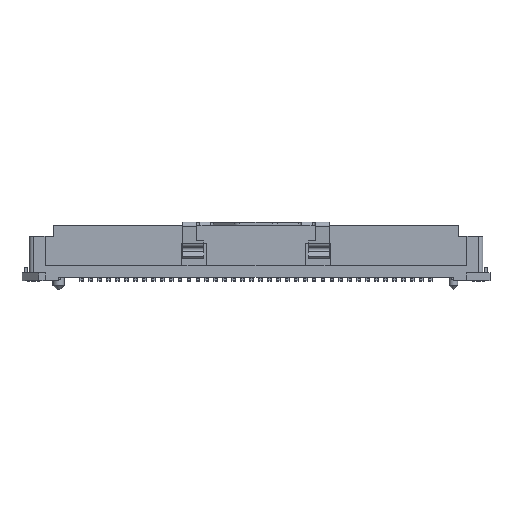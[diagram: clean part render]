
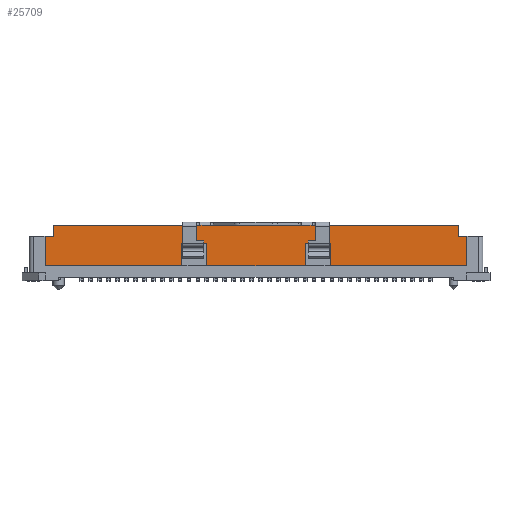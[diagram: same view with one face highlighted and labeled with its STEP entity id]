
A CAD part, top view. The second image highlights one B-rep face of the part: STEP entity #25709.
In plain terms, the highlighted planar face has unit normal (0, 0, 1).
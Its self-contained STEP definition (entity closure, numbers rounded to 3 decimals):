
#1405=DIRECTION('',(1.,0.,0.));
#1406=VECTOR('',#1405,1.);
#1407=CARTESIAN_POINT('',(4.2,1.975,2.4));
#1408=LINE('',#1407,#1406);
#1409=DIRECTION('',(0.,-1.,0.));
#1410=VECTOR('',#1409,0.8);
#1411=CARTESIAN_POINT('',(14.385,1.975,2.4));
#1412=LINE('',#1411,#1410);
#1413=DIRECTION('',(-1.,0.,0.));
#1414=VECTOR('',#1413,0.61);
#1415=CARTESIAN_POINT('',(14.995,1.175,2.4));
#1416=LINE('',#1415,#1414);
#1417=DIRECTION('',(0.,1.,0.));
#1418=VECTOR('',#1417,2.1);
#1419=CARTESIAN_POINT('',(14.995,-0.925,2.4));
#1420=LINE('',#1419,#1418);
#1421=DIRECTION('',(-1.,0.,0.));
#1422=VECTOR('',#1421,9.72);
#1423=CARTESIAN_POINT('',(14.995,-0.925,2.4));
#1424=LINE('',#1423,#1422);
#1425=DIRECTION('',(0.,1.,0.));
#1426=VECTOR('',#1425,1.6);
#1427=CARTESIAN_POINT('',(5.275,-0.925,2.4));
#1428=LINE('',#1427,#1426);
#1429=DIRECTION('',(1.,0.,0.));
#1430=VECTOR('',#1429,1.775);
#1431=CARTESIAN_POINT('',(3.5,0.675,2.4));
#1432=LINE('',#1431,#1430);
#1433=DIRECTION('',(0.,1.,0.));
#1434=VECTOR('',#1433,1.6);
#1435=CARTESIAN_POINT('',(3.5,-0.925,2.4));
#1436=LINE('',#1435,#1434);
#1437=DIRECTION('',(-1.,0.,0.));
#1438=VECTOR('',#1437,7.);
#1439=CARTESIAN_POINT('',(3.5,-0.925,2.4));
#1440=LINE('',#1439,#1438);
#1441=DIRECTION('',(0.,1.,0.));
#1442=VECTOR('',#1441,1.6);
#1443=CARTESIAN_POINT('',(-3.5,-0.925,2.4));
#1444=LINE('',#1443,#1442);
#1445=DIRECTION('',(1.,0.,0.));
#1446=VECTOR('',#1445,1.775);
#1447=CARTESIAN_POINT('',(-5.275,0.675,2.4));
#1448=LINE('',#1447,#1446);
#1449=DIRECTION('',(0.,1.,0.));
#1450=VECTOR('',#1449,1.6);
#1451=CARTESIAN_POINT('',(-5.275,-0.925,2.4));
#1452=LINE('',#1451,#1450);
#1453=DIRECTION('',(-1.,0.,0.));
#1454=VECTOR('',#1453,9.72);
#1455=CARTESIAN_POINT('',(-5.275,-0.925,2.4));
#1456=LINE('',#1455,#1454);
#1457=DIRECTION('',(0.,1.,0.));
#1458=VECTOR('',#1457,2.1);
#1459=CARTESIAN_POINT('',(-14.995,-0.925,2.4));
#1460=LINE('',#1459,#1458);
#1461=DIRECTION('',(1.,0.,0.));
#1462=VECTOR('',#1461,0.61);
#1463=CARTESIAN_POINT('',(-14.995,1.175,2.4));
#1464=LINE('',#1463,#1462);
#1465=DIRECTION('',(0.,-1.,0.));
#1466=VECTOR('',#1465,0.8);
#1467=CARTESIAN_POINT('',(-14.385,1.975,2.4));
#1468=LINE('',#1467,#1466);
#1469=DIRECTION('',(-1.,0.,0.));
#1470=VECTOR('',#1469,1.);
#1471=CARTESIAN_POINT('',(-4.2,1.975,2.4));
#1472=LINE('',#1471,#1470);
#1473=DIRECTION('',(0.,-1.,0.));
#1474=VECTOR('',#1473,0.005);
#1475=CARTESIAN_POINT('',(-1.959,1.975,2.4));
#1476=LINE('',#1475,#1474);
#1477=DIRECTION('',(-1.,0.,0.));
#1478=VECTOR('',#1477,3.917);
#1479=CARTESIAN_POINT('',(1.959,1.97,2.4));
#1480=LINE('',#1479,#1478);
#1481=DIRECTION('',(0.,-1.,0.));
#1482=VECTOR('',#1481,0.005);
#1483=CARTESIAN_POINT('',(1.959,1.975,2.4));
#1484=LINE('',#1483,#1482);
#1689=DIRECTION('',(-1.,0.,0.));
#1690=VECTOR('',#1689,2.241);
#1691=CARTESIAN_POINT('',(-1.959,1.975,2.4));
#1692=LINE('',#1691,#1690);
#1693=DIRECTION('',(-1.,0.,0.));
#1694=VECTOR('',#1693,9.185);
#1695=CARTESIAN_POINT('',(-5.2,1.975,2.4));
#1696=LINE('',#1695,#1694);
#1721=DIRECTION('',(-1.,0.,0.));
#1722=VECTOR('',#1721,9.185);
#1723=CARTESIAN_POINT('',(14.385,1.975,2.4));
#1724=LINE('',#1723,#1722);
#1733=DIRECTION('',(-1.,0.,0.));
#1734=VECTOR('',#1733,2.241);
#1735=CARTESIAN_POINT('',(4.2,1.975,2.4));
#1736=LINE('',#1735,#1734);
#18393=CARTESIAN_POINT('',(14.385,1.975,2.4));
#18394=CARTESIAN_POINT('',(14.385,1.175,2.4));
#18395=VERTEX_POINT('',#18393);
#18396=VERTEX_POINT('',#18394);
#18397=CARTESIAN_POINT('',(-14.385,1.975,2.4));
#18398=CARTESIAN_POINT('',(-14.385,1.175,2.4));
#18399=VERTEX_POINT('',#18397);
#18400=VERTEX_POINT('',#18398);
#18413=CARTESIAN_POINT('',(14.995,1.175,2.4));
#18414=VERTEX_POINT('',#18413);
#18415=CARTESIAN_POINT('',(-14.995,1.175,2.4));
#18416=VERTEX_POINT('',#18415);
#18485=CARTESIAN_POINT('',(-14.995,-0.925,2.4));
#18486=VERTEX_POINT('',#18485);
#18487=CARTESIAN_POINT('',(14.995,-0.925,2.4));
#18488=VERTEX_POINT('',#18487);
#19003=CARTESIAN_POINT('',(-5.275,-0.925,2.4));
#19005=VERTEX_POINT('',#19003);
#19009=CARTESIAN_POINT('',(-3.5,-0.925,2.4));
#19010=VERTEX_POINT('',#19009);
#19011=CARTESIAN_POINT('',(3.5,-0.925,2.4));
#19013=VERTEX_POINT('',#19011);
#19017=CARTESIAN_POINT('',(5.275,-0.925,2.4));
#19018=VERTEX_POINT('',#19017);
#19019=CARTESIAN_POINT('',(-5.275,0.675,2.4));
#19020=CARTESIAN_POINT('',(-3.5,0.675,2.4));
#19021=VERTEX_POINT('',#19019);
#19022=VERTEX_POINT('',#19020);
#19023=CARTESIAN_POINT('',(3.5,0.675,2.4));
#19024=CARTESIAN_POINT('',(5.275,0.675,2.4));
#19025=VERTEX_POINT('',#19023);
#19026=VERTEX_POINT('',#19024);
#19375=CARTESIAN_POINT('',(-1.959,1.975,2.4));
#19377=VERTEX_POINT('',#19375);
#19379=CARTESIAN_POINT('',(1.959,1.975,2.4));
#19381=VERTEX_POINT('',#19379);
#19387=CARTESIAN_POINT('',(-1.959,1.97,2.4));
#19388=VERTEX_POINT('',#19387);
#19389=CARTESIAN_POINT('',(1.959,1.97,2.4));
#19390=VERTEX_POINT('',#19389);
#19611=CARTESIAN_POINT('',(-5.2,1.975,2.4));
#19612=VERTEX_POINT('',#19611);
#19617=CARTESIAN_POINT('',(-4.2,1.975,2.4));
#19618=VERTEX_POINT('',#19617);
#19689=CARTESIAN_POINT('',(4.2,1.975,2.4));
#19690=CARTESIAN_POINT('',(5.2,1.975,2.4));
#19691=VERTEX_POINT('',#19689);
#19692=VERTEX_POINT('',#19690);
#25661=CARTESIAN_POINT('',(16.635,-0.925,2.4));
#25662=DIRECTION('',(0.,0.,-1.));
#25663=DIRECTION('',(0.,1.,0.));
#25664=AXIS2_PLACEMENT_3D('',#25661,#25662,#25663);
#25665=PLANE('',#25664);
#25667=ORIENTED_EDGE('',*,*,#25666,.T.);
#25669=ORIENTED_EDGE('',*,*,#25668,.F.);
#25671=ORIENTED_EDGE('',*,*,#25670,.T.);
#25672=ORIENTED_EDGE('',*,*,#24889,.F.);
#25674=ORIENTED_EDGE('',*,*,#25673,.F.);
#25675=ORIENTED_EDGE('',*,*,#25633,.T.);
#25677=ORIENTED_EDGE('',*,*,#25676,.T.);
#25679=ORIENTED_EDGE('',*,*,#25678,.F.);
#25681=ORIENTED_EDGE('',*,*,#25680,.F.);
#25682=ORIENTED_EDGE('',*,*,#25626,.T.);
#25684=ORIENTED_EDGE('',*,*,#25683,.T.);
#25686=ORIENTED_EDGE('',*,*,#25685,.F.);
#25687=ORIENTED_EDGE('',*,*,#25652,.F.);
#25688=ORIENTED_EDGE('',*,*,#25641,.T.);
#25690=ORIENTED_EDGE('',*,*,#25689,.T.);
#25691=ORIENTED_EDGE('',*,*,#24809,.T.);
#25693=ORIENTED_EDGE('',*,*,#25692,.F.);
#25695=ORIENTED_EDGE('',*,*,#25694,.F.);
#25697=ORIENTED_EDGE('',*,*,#25696,.F.);
#25699=ORIENTED_EDGE('',*,*,#25698,.F.);
#25701=ORIENTED_EDGE('',*,*,#25700,.T.);
#25702=ORIENTED_EDGE('',*,*,#25102,.F.);
#25704=ORIENTED_EDGE('',*,*,#25703,.F.);
#25706=ORIENTED_EDGE('',*,*,#25705,.F.);
#25707=EDGE_LOOP('',(#25667,#25669,#25671,#25672,#25674,#25675,#25677,#25679,
#25681,#25682,#25684,#25686,#25687,#25688,#25690,#25691,#25693,#25695,#25697,
#25699,#25701,#25702,#25704,#25706));
#25708=FACE_OUTER_BOUND('',#25707,.F.);
#25709=ADVANCED_FACE('',(#25708),#25665,.F.);
#24809=EDGE_CURVE('',#18416,#18400,#1464,.T.);
#24889=EDGE_CURVE('',#18414,#18396,#1416,.T.);
#25102=EDGE_CURVE('',#19390,#19388,#1480,.T.);
#25626=EDGE_CURVE('',#19013,#19010,#1440,.T.);
#25633=EDGE_CURVE('',#18488,#19018,#1424,.T.);
#25641=EDGE_CURVE('',#19005,#18486,#1456,.T.);
#25652=EDGE_CURVE('',#19005,#19021,#1452,.T.);
#25666=EDGE_CURVE('',#19691,#19692,#1408,.T.);
#25668=EDGE_CURVE('',#18395,#19692,#1724,.T.);
#25670=EDGE_CURVE('',#18395,#18396,#1412,.T.);
#25673=EDGE_CURVE('',#18488,#18414,#1420,.T.);
#25676=EDGE_CURVE('',#19018,#19026,#1428,.T.);
#25678=EDGE_CURVE('',#19025,#19026,#1432,.T.);
#25680=EDGE_CURVE('',#19013,#19025,#1436,.T.);
#25683=EDGE_CURVE('',#19010,#19022,#1444,.T.);
#25685=EDGE_CURVE('',#19021,#19022,#1448,.T.);
#25689=EDGE_CURVE('',#18486,#18416,#1460,.T.);
#25692=EDGE_CURVE('',#18399,#18400,#1468,.T.);
#25694=EDGE_CURVE('',#19612,#18399,#1696,.T.);
#25696=EDGE_CURVE('',#19618,#19612,#1472,.T.);
#25698=EDGE_CURVE('',#19377,#19618,#1692,.T.);
#25700=EDGE_CURVE('',#19377,#19388,#1476,.T.);
#25703=EDGE_CURVE('',#19381,#19390,#1484,.T.);
#25705=EDGE_CURVE('',#19691,#19381,#1736,.T.);
